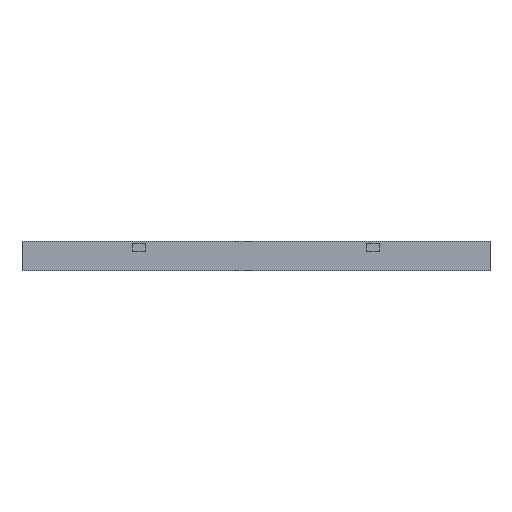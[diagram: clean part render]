
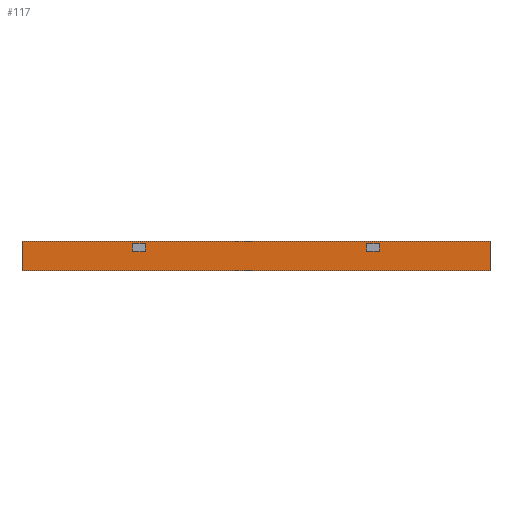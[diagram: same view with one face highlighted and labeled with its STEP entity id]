
A CAD part, left-side view. The second image highlights one B-rep face of the part: STEP entity #117.
In plain terms, the highlighted planar face has unit normal (-1, 0, 0).
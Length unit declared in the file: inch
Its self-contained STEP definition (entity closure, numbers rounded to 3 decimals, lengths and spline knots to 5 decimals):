
#16=FACE_BOUND('',#456,.T.);
#17=FACE_BOUND('',#457,.T.);
#117=ADVANCED_FACE('',(#285,#16,#17),#2797,.T.);
#285=FACE_OUTER_BOUND('',#455,.T.);
#455=EDGE_LOOP('',(#842,#843,#844,#845));
#456=EDGE_LOOP('',(#846,#847,#848,#849));
#457=EDGE_LOOP('',(#850,#851,#852,#853));
#842=ORIENTED_EDGE('',*,*,#1690,.T.);
#843=ORIENTED_EDGE('',*,*,#1691,.T.);
#844=ORIENTED_EDGE('',*,*,#1692,.T.);
#845=ORIENTED_EDGE('',*,*,#1693,.T.);
#846=ORIENTED_EDGE('',*,*,#1640,.F.);
#847=ORIENTED_EDGE('',*,*,#1670,.F.);
#848=ORIENTED_EDGE('',*,*,#1607,.F.);
#849=ORIENTED_EDGE('',*,*,#1570,.F.);
#850=ORIENTED_EDGE('',*,*,#1697,.T.);
#851=ORIENTED_EDGE('',*,*,#1694,.T.);
#852=ORIENTED_EDGE('',*,*,#1695,.T.);
#853=ORIENTED_EDGE('',*,*,#1696,.T.);
#1570=EDGE_CURVE('',#2482,#2483,#2026,.T.);
#1607=EDGE_CURVE('',#2483,#2508,#2063,.T.);
#1640=EDGE_CURVE('',#2530,#2482,#2096,.T.);
#1670=EDGE_CURVE('',#2508,#2530,#2126,.T.);
#1690=EDGE_CURVE('',#2550,#2551,#2146,.T.);
#1691=EDGE_CURVE('',#2551,#2552,#2147,.T.);
#1692=EDGE_CURVE('',#2552,#2553,#2148,.T.);
#1693=EDGE_CURVE('',#2553,#2550,#2149,.T.);
#1694=EDGE_CURVE('',#2554,#2555,#2150,.T.);
#1695=EDGE_CURVE('',#2555,#2556,#2151,.T.);
#1696=EDGE_CURVE('',#2556,#2557,#2152,.T.);
#1697=EDGE_CURVE('',#2557,#2554,#2153,.T.);
#2026=B_SPLINE_CURVE_WITH_KNOTS('',1,(#3903,#3904),.UNSPECIFIED.,.F.,.F.,
(2,2),(0.,1.25),.UNSPECIFIED.);
#2063=B_SPLINE_CURVE_WITH_KNOTS('',1,(#3977,#3978),.UNSPECIFIED.,.F.,.F.,
(2,2),(0.,0.75),.UNSPECIFIED.);
#2096=B_SPLINE_CURVE_WITH_KNOTS('',1,(#4043,#4044),.UNSPECIFIED.,.F.,.F.,
(2,2),(0.,0.75),.UNSPECIFIED.);
#2126=B_SPLINE_CURVE_WITH_KNOTS('',1,(#4103,#4104),.UNSPECIFIED.,.F.,.F.,
(2,2),(0.,1.25),.UNSPECIFIED.);
#2146=B_SPLINE_CURVE_WITH_KNOTS('',1,(#4143,#4144),.UNSPECIFIED.,.F.,.F.,
(2,2),(0.,48.),.UNSPECIFIED.);
#2147=B_SPLINE_CURVE_WITH_KNOTS('',1,(#4145,#4146),.UNSPECIFIED.,.F.,.F.,
(2,2),(0.,3.),.UNSPECIFIED.);
#2148=B_SPLINE_CURVE_WITH_KNOTS('',1,(#4147,#4148),.UNSPECIFIED.,.F.,.F.,
(2,2),(0.,48.),.UNSPECIFIED.);
#2149=B_SPLINE_CURVE_WITH_KNOTS('',1,(#4149,#4150),.UNSPECIFIED.,.F.,.F.,
(2,2),(0.,3.),.UNSPECIFIED.);
#2150=B_SPLINE_CURVE_WITH_KNOTS('',1,(#4151,#4152),.UNSPECIFIED.,.F.,.F.,
(2,2),(0.,1.25),.UNSPECIFIED.);
#2151=B_SPLINE_CURVE_WITH_KNOTS('',1,(#4153,#4154),.UNSPECIFIED.,.F.,.F.,
(2,2),(0.,0.75),.UNSPECIFIED.);
#2152=B_SPLINE_CURVE_WITH_KNOTS('',1,(#4155,#4156),.UNSPECIFIED.,.F.,.F.,
(2,2),(0.,1.25),.UNSPECIFIED.);
#2153=B_SPLINE_CURVE_WITH_KNOTS('',1,(#4157,#4158),.UNSPECIFIED.,.F.,.F.,
(2,2),(0.,0.75),.UNSPECIFIED.);
#2482=VERTEX_POINT('',#3555);
#2483=VERTEX_POINT('',#3556);
#2508=VERTEX_POINT('',#3581);
#2530=VERTEX_POINT('',#3603);
#2550=VERTEX_POINT('',#3623);
#2551=VERTEX_POINT('',#3624);
#2552=VERTEX_POINT('',#3625);
#2553=VERTEX_POINT('',#3626);
#2554=VERTEX_POINT('',#3627);
#2555=VERTEX_POINT('',#3628);
#2556=VERTEX_POINT('',#3629);
#2557=VERTEX_POINT('',#3630);
#2797=PLANE('',#3056);
#3056=AXIS2_PLACEMENT_3D('',#3398,#3227,$);
#3227=DIRECTION('',(-1.,0.,0.));
#3398=CARTESIAN_POINT('',(-21.25,28.80472,1.80472));
#3555=CARTESIAN_POINT('',(-21.25,11.375,1.25));
#3556=CARTESIAN_POINT('',(-21.25,12.625,1.25));
#3581=CARTESIAN_POINT('',(-21.25,12.625,0.5));
#3603=CARTESIAN_POINT('',(-21.25,11.375,0.5));
#3623=CARTESIAN_POINT('',(-21.25,24.,-1.5));
#3624=CARTESIAN_POINT('',(-21.25,-24.,-1.5));
#3625=CARTESIAN_POINT('',(-21.25,-24.,1.5));
#3626=CARTESIAN_POINT('',(-21.25,24.,1.5));
#3627=CARTESIAN_POINT('',(-21.25,-11.375,1.25));
#3628=CARTESIAN_POINT('',(-21.25,-12.625,1.25));
#3629=CARTESIAN_POINT('',(-21.25,-12.625,0.5));
#3630=CARTESIAN_POINT('',(-21.25,-11.375,0.5));
#3903=CARTESIAN_POINT('',(-21.25,11.375,1.25));
#3904=CARTESIAN_POINT('',(-21.25,12.625,1.25));
#3977=CARTESIAN_POINT('',(-21.25,12.625,1.25));
#3978=CARTESIAN_POINT('',(-21.25,12.625,0.5));
#4043=CARTESIAN_POINT('',(-21.25,11.375,0.5));
#4044=CARTESIAN_POINT('',(-21.25,11.375,1.25));
#4103=CARTESIAN_POINT('',(-21.25,12.625,0.5));
#4104=CARTESIAN_POINT('',(-21.25,11.375,0.5));
#4143=CARTESIAN_POINT('',(-21.25,24.,-1.5));
#4144=CARTESIAN_POINT('',(-21.25,-24.,-1.5));
#4145=CARTESIAN_POINT('',(-21.25,-24.,-1.5));
#4146=CARTESIAN_POINT('',(-21.25,-24.,1.5));
#4147=CARTESIAN_POINT('',(-21.25,-24.,1.5));
#4148=CARTESIAN_POINT('',(-21.25,24.,1.5));
#4149=CARTESIAN_POINT('',(-21.25,24.,1.5));
#4150=CARTESIAN_POINT('',(-21.25,24.,-1.5));
#4151=CARTESIAN_POINT('',(-21.25,-11.375,1.25));
#4152=CARTESIAN_POINT('',(-21.25,-12.625,1.25));
#4153=CARTESIAN_POINT('',(-21.25,-12.625,1.25));
#4154=CARTESIAN_POINT('',(-21.25,-12.625,0.5));
#4155=CARTESIAN_POINT('',(-21.25,-12.625,0.5));
#4156=CARTESIAN_POINT('',(-21.25,-11.375,0.5));
#4157=CARTESIAN_POINT('',(-21.25,-11.375,0.5));
#4158=CARTESIAN_POINT('',(-21.25,-11.375,1.25));
